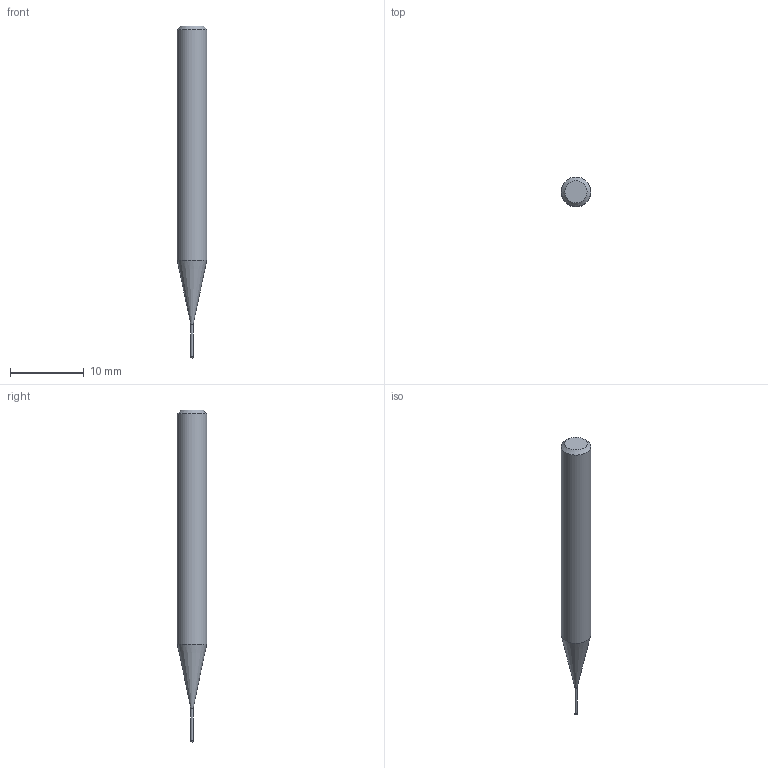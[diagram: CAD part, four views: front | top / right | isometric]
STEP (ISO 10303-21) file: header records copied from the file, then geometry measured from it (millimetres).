
FILE_DESCRIPTION((''),'2;1');
FILE_NAME('C:\Users\nsx150\AppData\Local\Temp\Mastercam 2021\3SYKECWX22\TEMP.step','2021-04-22T09:59:35',(''),(''),'STEP Write','Mastercam 2021 ... CNC Software, Inc.','');
FILE_SCHEMA(('AUTOMOTIVE_DESIGN'));
Length unit declared in the file: millimetre
Products named in the file (1): None
Bounding box: 4 x 4 x 45 mm (x, y, z)
Volume: 437.2 mm3; surface area: 471.8 mm2
Topology: 2 solids, 2 shells, 9 faces, 14 edges, 8 vertices
Faces by surface type: plane 3, cylinder 3, cone 2, sphere 1
Full cylindrical faces by diameter (mm): 0.28 x1, 0.3 x1, 4 x1
Entity records: 211 total; most frequent: DIRECTION 36, CARTESIAN_POINT 25, AXIS2_PLACEMENT_3D 18, ORIENTED_EDGE 14, EDGE_LOOP 14, STYLED_ITEM 12, ADVANCED_FACE 9, FACE_BOUND 8
